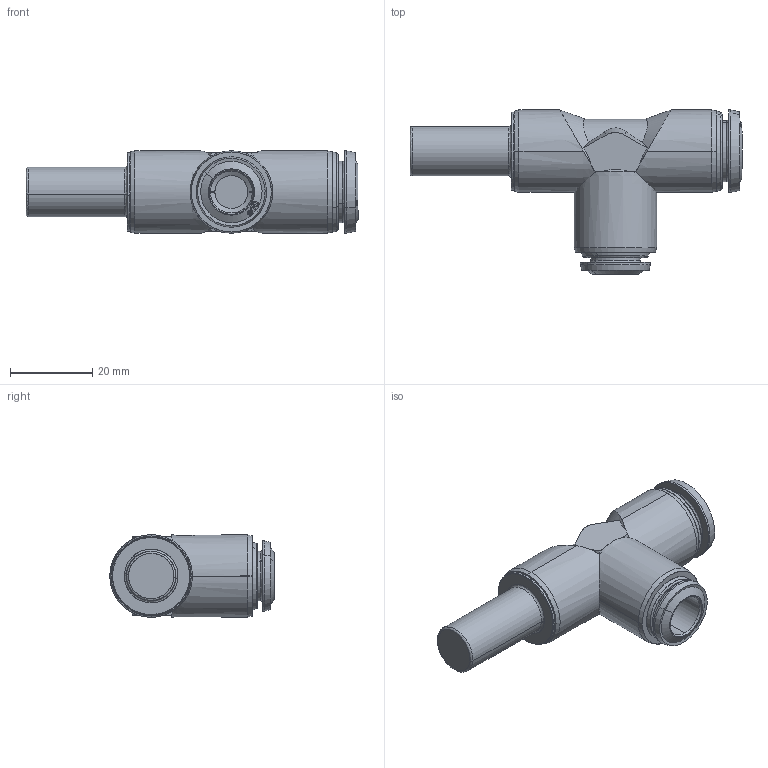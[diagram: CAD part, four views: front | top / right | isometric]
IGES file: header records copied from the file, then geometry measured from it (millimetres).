
Start section: SolidWorks IGES file using analytic representation for surfaces
Global section: file name: \\192.168.0.114\Utecnico\Disegni\Disegni Esecutivi\SERIE 55000\ASSIEMI_55000\55235\IGES e STEP\5523500012A.IGS; native system: SolidWorks 2020; preprocessor: SolidWorks 2020; author: CAD13; date: 250905.150224; units: millimetre
Bounding box: 80.5 x 39.8 x 20 mm (x, y, z)
Surface area: 8247.2 mm2 (no closed solid volume)
Topology: 0 solids, 0 shells, 222 faces, 2580 edges, 2580 vertices
Faces by surface type: bspline 139, revolution 83
